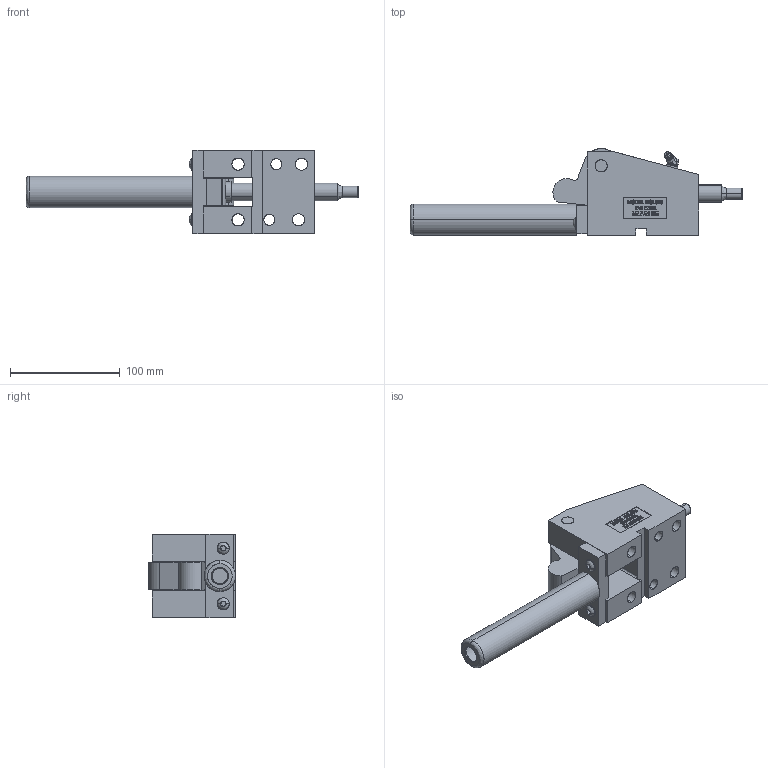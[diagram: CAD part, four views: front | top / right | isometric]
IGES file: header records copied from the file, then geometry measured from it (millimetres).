
Start section: SolidWorks IGES file using analytic representation for surfaces
Global section: file name: Y:\3\MOL62545\CLOSED\MOL62545-C.IGS; native system: SolidWorks 2006 by SolidWorks Corporation; preprocessor: SolidWorks 2006 by SolidWorks Corporation; author: Jim; date: 090126.104309; units: inch
Bounding box: 303.07 x 79.37 x 76.2 mm (x, y, z)
Surface area: 116413.3 mm2 (no closed solid volume)
Topology: 0 solids, 0 shells, 607 faces, 7755 edges, 7753 vertices
Faces by surface type: bspline 479, revolution 128
